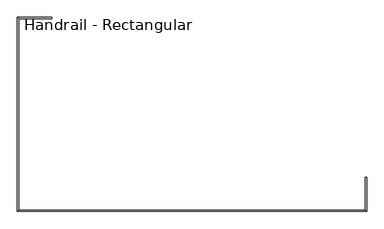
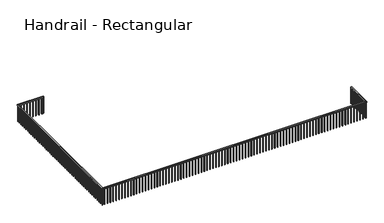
"""IFC4 building model written with IfcOpenShell, lengths in millimetres: railing geometry, Handrail - Rectangular."""

from ifc_helpers import new_model, si_unit, frame, origin, place, context, project, spatial, polyline, outline, extrude, faceted_brep, source, transform, mapped, element, save


def handrail_rectangular_77feda68(model_context):
    return source(origin(), model_context, "Body", "SolidModel", [
        faceted_brep([(-18781.6839563, -34232.3683133, 10058.4), (-18730.8839563, -34232.3683133, 10058.4), (-18730.8839563, -34232.3683133, 10007.6), (-18781.6839563, -34232.3683133, 10007.6), (-18781.6839563, -35527.7683133, 10058.4), (-18730.8839563, -35578.5683133, 10058.4), (-18730.8839563, -35578.5683133, 10007.6), (-18781.6839563, -35527.7683133, 10007.6), (-32396.0839563, -35527.7683133, 10058.4), (-32446.8839563, -35578.5683133, 10058.4), (-32446.8839563, -35578.5683133, 10007.6), (-32396.0839563, -35527.7683133, 10007.6), (-32396.0839563, -28009.3683133, 10058.4), (-32446.8839563, -27958.5683133, 10058.4), (-32446.8839563, -27958.5683133, 10007.6), (-32396.0839563, -28009.3683133, 10007.6), (-31100.6839563, -28009.3683133, 10058.4), (-31100.6839563, -28009.3683133, 10007.6), (-31100.6839563, -27958.5683133, 10007.6), (-31100.6839563, -27958.5683133, 10058.4)], [[[0, 1, 2, 3]], [[1, 0, 4, 5]], [[2, 1, 5, 6]], [[3, 2, 6, 7]], [[0, 3, 7, 4]], [[5, 4, 8, 9]], [[6, 5, 9, 10]], [[7, 6, 10, 11]], [[4, 7, 11, 8]], [[9, 8, 12, 13]], [[10, 9, 13, 14]], [[11, 10, 14, 15]], [[8, 11, 15, 12]], [[16, 17, 18, 19]], [[13, 12, 16, 19]], [[14, 13, 19, 18]], [[15, 14, 18, 17]], [[12, 15, 17, 16]]]),
        extrude(outline(polyline([(-31211.8089563, -27993.4933133), (-31211.8089563, -27974.4433133), (-31192.7589563, -27974.4433133), (-31192.7589563, -27993.4933133), (-31211.8089563, -27993.4933133)])), frame((0.0, 0.0, 9144.0), z_axis=(0.0, 0.0, 1.0), x_axis=(1.0, 0.0, 0.0)), (0.0, 0.0, 1.0), 863.6),
        extrude(outline(polyline([(-31364.2089563, -27993.4933133), (-31364.2089563, -27974.4433133), (-31345.1589563, -27974.4433133), (-31345.1589563, -27993.4933133), (-31364.2089563, -27993.4933133)])), frame((0.0, 0.0, 9144.0), z_axis=(0.0, 0.0, 1.0), x_axis=(1.0, 0.0, 0.0)), (0.0, 0.0, 1.0), 863.6),
        extrude(outline(polyline([(-31516.6089563, -27993.4933133), (-31516.6089563, -27974.4433133), (-31497.5589563, -27974.4433133), (-31497.5589563, -27993.4933133), (-31516.6089563, -27993.4933133)])), frame((0.0, 0.0, 9144.0), z_axis=(0.0, 0.0, 1.0), x_axis=(1.0, 0.0, 0.0)), (0.0, 0.0, 1.0), 863.6),
        extrude(outline(polyline([(-31669.0089563, -27993.4933133), (-31669.0089563, -27974.4433133), (-31649.9589563, -27974.4433133), (-31649.9589563, -27993.4933133), (-31669.0089563, -27993.4933133)])), frame((0.0, 0.0, 9144.0), z_axis=(0.0, 0.0, 1.0), x_axis=(1.0, 0.0, 0.0)), (0.0, 0.0, 1.0), 863.6),
        extrude(outline(polyline([(-31821.4089563, -27993.4933133), (-31821.4089563, -27974.4433133), (-31802.3589563, -27974.4433133), (-31802.3589563, -27993.4933133), (-31821.4089563, -27993.4933133)])), frame((0.0, 0.0, 9144.0), z_axis=(0.0, 0.0, 1.0), x_axis=(1.0, 0.0, 0.0)), (0.0, 0.0, 1.0), 863.6),
        extrude(outline(polyline([(-31973.8089563, -27993.4933133), (-31973.8089563, -27974.4433133), (-31954.7589563, -27974.4433133), (-31954.7589563, -27993.4933133), (-31973.8089563, -27993.4933133)])), frame((0.0, 0.0, 9144.0), z_axis=(0.0, 0.0, 1.0), x_axis=(1.0, 0.0, 0.0)), (0.0, 0.0, 1.0), 863.6),
        extrude(outline(polyline([(-32126.2089563, -27993.4933133), (-32126.2089563, -27974.4433133), (-32107.1589563, -27974.4433133), (-32107.1589563, -27993.4933133), (-32126.2089563, -27993.4933133)])), frame((0.0, 0.0, 9144.0), z_axis=(0.0, 0.0, 1.0), x_axis=(1.0, 0.0, 0.0)), (0.0, 0.0, 1.0), 863.6),
        extrude(outline(polyline([(-32278.6089563, -27993.4933133), (-32278.6089563, -27974.4433133), (-32259.5589563, -27974.4433133), (-32259.5589563, -27993.4933133), (-32278.6089563, -27993.4933133)])), frame((0.0, 0.0, 9144.0), z_axis=(0.0, 0.0, 1.0), x_axis=(1.0, 0.0, 0.0)), (0.0, 0.0, 1.0), 863.6),
        extrude(outline(polyline([(-32411.9589563, -28095.0933133), (-32431.0089563, -28095.0933133), (-32431.0089563, -28076.0433133), (-32411.9589563, -28076.0433133), (-32411.9589563, -28095.0933133)])), frame((0.0, 0.0, 9144.0), z_axis=(0.0, 0.0, 1.0), x_axis=(1.0, 0.0, 0.0)), (0.0, 0.0, 1.0), 863.6),
        extrude(outline(polyline([(-32411.9589563, -28247.4933133), (-32431.0089563, -28247.4933133), (-32431.0089563, -28228.4433133), (-32411.9589563, -28228.4433133), (-32411.9589563, -28247.4933133)])), frame((0.0, 0.0, 9144.0), z_axis=(0.0, 0.0, 1.0), x_axis=(1.0, 0.0, 0.0)), (0.0, 0.0, 1.0), 863.6),
        extrude(outline(polyline([(-32411.9589563, -28399.8933133), (-32431.0089563, -28399.8933133), (-32431.0089563, -28380.8433133), (-32411.9589563, -28380.8433133), (-32411.9589563, -28399.8933133)])), frame((0.0, 0.0, 9144.0), z_axis=(0.0, 0.0, 1.0), x_axis=(1.0, 0.0, 0.0)), (0.0, 0.0, 1.0), 863.6),
        extrude(outline(polyline([(-32411.9589563, -28552.2933133), (-32431.0089563, -28552.2933133), (-32431.0089563, -28533.2433133), (-32411.9589563, -28533.2433133), (-32411.9589563, -28552.2933133)])), frame((0.0, 0.0, 9144.0), z_axis=(0.0, 0.0, 1.0), x_axis=(1.0, 0.0, 0.0)), (0.0, 0.0, 1.0), 863.6),
        extrude(outline(polyline([(-32411.9589563, -28704.6933133), (-32431.0089563, -28704.6933133), (-32431.0089563, -28685.6433133), (-32411.9589563, -28685.6433133), (-32411.9589563, -28704.6933133)])), frame((0.0, 0.0, 9144.0), z_axis=(0.0, 0.0, 1.0), x_axis=(1.0, 0.0, 0.0)), (0.0, 0.0, 1.0), 863.6),
        extrude(outline(polyline([(-32411.9589563, -28857.0933133), (-32431.0089563, -28857.0933133), (-32431.0089563, -28838.0433133), (-32411.9589563, -28838.0433133), (-32411.9589563, -28857.0933133)])), frame((0.0, 0.0, 9144.0), z_axis=(0.0, 0.0, 1.0), x_axis=(1.0, 0.0, 0.0)), (0.0, 0.0, 1.0), 863.6),
        extrude(outline(polyline([(-32411.9589563, -29009.4933133), (-32431.0089563, -29009.4933133), (-32431.0089563, -28990.4433133), (-32411.9589563, -28990.4433133), (-32411.9589563, -29009.4933133)])), frame((0.0, 0.0, 9144.0), z_axis=(0.0, 0.0, 1.0), x_axis=(1.0, 0.0, 0.0)), (0.0, 0.0, 1.0), 863.6),
        extrude(outline(polyline([(-32411.9589563, -29161.8933133), (-32431.0089563, -29161.8933133), (-32431.0089563, -29142.8433133), (-32411.9589563, -29142.8433133), (-32411.9589563, -29161.8933133)])), frame((0.0, 0.0, 9144.0), z_axis=(0.0, 0.0, 1.0), x_axis=(1.0, 0.0, 0.0)), (0.0, 0.0, 1.0), 863.6),
        extrude(outline(polyline([(-32411.9589563, -29314.2933133), (-32431.0089563, -29314.2933133), (-32431.0089563, -29295.2433133), (-32411.9589563, -29295.2433133), (-32411.9589563, -29314.2933133)])), frame((0.0, 0.0, 9144.0), z_axis=(0.0, 0.0, 1.0), x_axis=(1.0, 0.0, 0.0)), (0.0, 0.0, 1.0), 863.6),
        extrude(outline(polyline([(-32411.9589563, -29466.6933133), (-32431.0089563, -29466.6933133), (-32431.0089563, -29447.6433133), (-32411.9589563, -29447.6433133), (-32411.9589563, -29466.6933133)])), frame((0.0, 0.0, 9144.0), z_axis=(0.0, 0.0, 1.0), x_axis=(1.0, 0.0, 0.0)), (0.0, 0.0, 1.0), 863.6),
        extrude(outline(polyline([(-32411.9589563, -29619.0933133), (-32431.0089563, -29619.0933133), (-32431.0089563, -29600.0433133), (-32411.9589563, -29600.0433133), (-32411.9589563, -29619.0933133)])), frame((0.0, 0.0, 9144.0), z_axis=(0.0, 0.0, 1.0), x_axis=(1.0, 0.0, 0.0)), (0.0, 0.0, 1.0), 863.6),
        extrude(outline(polyline([(-32411.9589563, -29771.4933133), (-32431.0089563, -29771.4933133), (-32431.0089563, -29752.4433133), (-32411.9589563, -29752.4433133), (-32411.9589563, -29771.4933133)])), frame((0.0, 0.0, 9144.0), z_axis=(0.0, 0.0, 1.0), x_axis=(1.0, 0.0, 0.0)), (0.0, 0.0, 1.0), 863.6),
        extrude(outline(polyline([(-32411.9589563, -29923.8933133), (-32431.0089563, -29923.8933133), (-32431.0089563, -29904.8433133), (-32411.9589563, -29904.8433133), (-32411.9589563, -29923.8933133)])), frame((0.0, 0.0, 9144.0), z_axis=(0.0, 0.0, 1.0), x_axis=(1.0, 0.0, 0.0)), (0.0, 0.0, 1.0), 863.6),
        extrude(outline(polyline([(-32411.9589563, -30076.2933133), (-32431.0089563, -30076.2933133), (-32431.0089563, -30057.2433133), (-32411.9589563, -30057.2433133), (-32411.9589563, -30076.2933133)])), frame((0.0, 0.0, 9144.0), z_axis=(0.0, 0.0, 1.0), x_axis=(1.0, 0.0, 0.0)), (0.0, 0.0, 1.0), 863.6),
        extrude(outline(polyline([(-32411.9589563, -30228.6933133), (-32431.0089563, -30228.6933133), (-32431.0089563, -30209.6433133), (-32411.9589563, -30209.6433133), (-32411.9589563, -30228.6933133)])), frame((0.0, 0.0, 9144.0), z_axis=(0.0, 0.0, 1.0), x_axis=(1.0, 0.0, 0.0)), (0.0, 0.0, 1.0), 863.6),
        extrude(outline(polyline([(-32411.9589563, -30381.0933133), (-32431.0089563, -30381.0933133), (-32431.0089563, -30362.0433133), (-32411.9589563, -30362.0433133), (-32411.9589563, -30381.0933133)])), frame((0.0, 0.0, 9144.0), z_axis=(0.0, 0.0, 1.0), x_axis=(1.0, 0.0, 0.0)), (0.0, 0.0, 1.0), 863.6),
        extrude(outline(polyline([(-32411.9589563, -30533.4933133), (-32431.0089563, -30533.4933133), (-32431.0089563, -30514.4433133), (-32411.9589563, -30514.4433133), (-32411.9589563, -30533.4933133)])), frame((0.0, 0.0, 9144.0), z_axis=(0.0, 0.0, 1.0), x_axis=(1.0, 0.0, 0.0)), (0.0, 0.0, 1.0), 863.6),
        extrude(outline(polyline([(-32411.9589563, -30685.8933133), (-32431.0089563, -30685.8933133), (-32431.0089563, -30666.8433133), (-32411.9589563, -30666.8433133), (-32411.9589563, -30685.8933133)])), frame((0.0, 0.0, 9144.0), z_axis=(0.0, 0.0, 1.0), x_axis=(1.0, 0.0, 0.0)), (0.0, 0.0, 1.0), 863.6),
        extrude(outline(polyline([(-32411.9589563, -30838.2933133), (-32431.0089563, -30838.2933133), (-32431.0089563, -30819.2433133), (-32411.9589563, -30819.2433133), (-32411.9589563, -30838.2933133)])), frame((0.0, 0.0, 9144.0), z_axis=(0.0, 0.0, 1.0), x_axis=(1.0, 0.0, 0.0)), (0.0, 0.0, 1.0), 863.6),
        extrude(outline(polyline([(-32411.9589563, -30990.6933133), (-32431.0089563, -30990.6933133), (-32431.0089563, -30971.6433133), (-32411.9589563, -30971.6433133), (-32411.9589563, -30990.6933133)])), frame((0.0, 0.0, 9144.0), z_axis=(0.0, 0.0, 1.0), x_axis=(1.0, 0.0, 0.0)), (0.0, 0.0, 1.0), 863.6),
        extrude(outline(polyline([(-32411.9589563, -31143.0933133), (-32431.0089563, -31143.0933133), (-32431.0089563, -31124.0433133), (-32411.9589563, -31124.0433133), (-32411.9589563, -31143.0933133)])), frame((0.0, 0.0, 9144.0), z_axis=(0.0, 0.0, 1.0), x_axis=(1.0, 0.0, 0.0)), (0.0, 0.0, 1.0), 863.6),
        extrude(outline(polyline([(-32411.9589563, -31295.4933133), (-32431.0089563, -31295.4933133), (-32431.0089563, -31276.4433133), (-32411.9589563, -31276.4433133), (-32411.9589563, -31295.4933133)])), frame((0.0, 0.0, 9144.0), z_axis=(0.0, 0.0, 1.0), x_axis=(1.0, 0.0, 0.0)), (0.0, 0.0, 1.0), 863.6),
        extrude(outline(polyline([(-32411.9589563, -31447.8933133), (-32431.0089563, -31447.8933133), (-32431.0089563, -31428.8433133), (-32411.9589563, -31428.8433133), (-32411.9589563, -31447.8933133)])), frame((0.0, 0.0, 9144.0), z_axis=(0.0, 0.0, 1.0), x_axis=(1.0, 0.0, 0.0)), (0.0, 0.0, 1.0), 863.6),
        extrude(outline(polyline([(-32411.9589563, -31600.2933133), (-32431.0089563, -31600.2933133), (-32431.0089563, -31581.2433133), (-32411.9589563, -31581.2433133), (-32411.9589563, -31600.2933133)])), frame((0.0, 0.0, 9144.0), z_axis=(0.0, 0.0, 1.0), x_axis=(1.0, 0.0, 0.0)), (0.0, 0.0, 1.0), 863.6),
        extrude(outline(polyline([(-32411.9589563, -31752.6933133), (-32431.0089563, -31752.6933133), (-32431.0089563, -31733.6433133), (-32411.9589563, -31733.6433133), (-32411.9589563, -31752.6933133)])), frame((0.0, 0.0, 9144.0), z_axis=(0.0, 0.0, 1.0), x_axis=(1.0, 0.0, 0.0)), (0.0, 0.0, 1.0), 863.6),
        extrude(outline(polyline([(-32411.9589563, -31905.0933133), (-32431.0089563, -31905.0933133), (-32431.0089563, -31886.0433133), (-32411.9589563, -31886.0433133), (-32411.9589563, -31905.0933133)])), frame((0.0, 0.0, 9144.0), z_axis=(0.0, 0.0, 1.0), x_axis=(1.0, 0.0, 0.0)), (0.0, 0.0, 1.0), 863.6),
        extrude(outline(polyline([(-32411.9589563, -32057.4933133), (-32431.0089563, -32057.4933133), (-32431.0089563, -32038.4433133), (-32411.9589563, -32038.4433133), (-32411.9589563, -32057.4933133)])), frame((0.0, 0.0, 9144.0), z_axis=(0.0, 0.0, 1.0), x_axis=(1.0, 0.0, 0.0)), (0.0, 0.0, 1.0), 863.6),
        extrude(outline(polyline([(-32411.9589563, -32209.8933133), (-32431.0089563, -32209.8933133), (-32431.0089563, -32190.8433133), (-32411.9589563, -32190.8433133), (-32411.9589563, -32209.8933133)])), frame((0.0, 0.0, 9144.0), z_axis=(0.0, 0.0, 1.0), x_axis=(1.0, 0.0, 0.0)), (0.0, 0.0, 1.0), 863.6),
        extrude(outline(polyline([(-32411.9589563, -32362.2933133), (-32431.0089563, -32362.2933133), (-32431.0089563, -32343.2433133), (-32411.9589563, -32343.2433133), (-32411.9589563, -32362.2933133)])), frame((0.0, 0.0, 9144.0), z_axis=(0.0, 0.0, 1.0), x_axis=(1.0, 0.0, 0.0)), (0.0, 0.0, 1.0), 863.6),
        extrude(outline(polyline([(-32411.9589563, -32514.6933133), (-32431.0089563, -32514.6933133), (-32431.0089563, -32495.6433133), (-32411.9589563, -32495.6433133), (-32411.9589563, -32514.6933133)])), frame((0.0, 0.0, 9144.0), z_axis=(0.0, 0.0, 1.0), x_axis=(1.0, 0.0, 0.0)), (0.0, 0.0, 1.0), 863.6),
        extrude(outline(polyline([(-32411.9589563, -32667.0933133), (-32431.0089563, -32667.0933133), (-32431.0089563, -32648.0433133), (-32411.9589563, -32648.0433133), (-32411.9589563, -32667.0933133)])), frame((0.0, 0.0, 9144.0), z_axis=(0.0, 0.0, 1.0), x_axis=(1.0, 0.0, 0.0)), (0.0, 0.0, 1.0), 863.6),
        extrude(outline(polyline([(-32411.9589563, -32819.4933133), (-32431.0089563, -32819.4933133), (-32431.0089563, -32800.4433133), (-32411.9589563, -32800.4433133), (-32411.9589563, -32819.4933133)])), frame((0.0, 0.0, 9144.0), z_axis=(0.0, 0.0, 1.0), x_axis=(1.0, 0.0, 0.0)), (0.0, 0.0, 1.0), 863.6),
        extrude(outline(polyline([(-32411.9589563, -32971.8933133), (-32431.0089563, -32971.8933133), (-32431.0089563, -32952.8433133), (-32411.9589563, -32952.8433133), (-32411.9589563, -32971.8933133)])), frame((0.0, 0.0, 9144.0), z_axis=(0.0, 0.0, 1.0), x_axis=(1.0, 0.0, 0.0)), (0.0, 0.0, 1.0), 863.6),
        extrude(outline(polyline([(-32411.9589563, -33124.2933133), (-32431.0089563, -33124.2933133), (-32431.0089563, -33105.2433133), (-32411.9589563, -33105.2433133), (-32411.9589563, -33124.2933133)])), frame((0.0, 0.0, 9144.0), z_axis=(0.0, 0.0, 1.0), x_axis=(1.0, 0.0, 0.0)), (0.0, 0.0, 1.0), 863.6),
        extrude(outline(polyline([(-32411.9589563, -33276.6933133), (-32431.0089563, -33276.6933133), (-32431.0089563, -33257.6433133), (-32411.9589563, -33257.6433133), (-32411.9589563, -33276.6933133)])), frame((0.0, 0.0, 9144.0), z_axis=(0.0, 0.0, 1.0), x_axis=(1.0, 0.0, 0.0)), (0.0, 0.0, 1.0), 863.6),
        extrude(outline(polyline([(-32411.9589563, -33429.0933133), (-32431.0089563, -33429.0933133), (-32431.0089563, -33410.0433133), (-32411.9589563, -33410.0433133), (-32411.9589563, -33429.0933133)])), frame((0.0, 0.0, 9144.0), z_axis=(0.0, 0.0, 1.0), x_axis=(1.0, 0.0, 0.0)), (0.0, 0.0, 1.0), 863.6),
        extrude(outline(polyline([(-32411.9589563, -33581.4933133), (-32431.0089563, -33581.4933133), (-32431.0089563, -33562.4433133), (-32411.9589563, -33562.4433133), (-32411.9589563, -33581.4933133)])), frame((0.0, 0.0, 9144.0), z_axis=(0.0, 0.0, 1.0), x_axis=(1.0, 0.0, 0.0)), (0.0, 0.0, 1.0), 863.6),
        extrude(outline(polyline([(-32411.9589563, -33733.8933133), (-32431.0089563, -33733.8933133), (-32431.0089563, -33714.8433133), (-32411.9589563, -33714.8433133), (-32411.9589563, -33733.8933133)])), frame((0.0, 0.0, 9144.0), z_axis=(0.0, 0.0, 1.0), x_axis=(1.0, 0.0, 0.0)), (0.0, 0.0, 1.0), 863.6),
        extrude(outline(polyline([(-32411.9589563, -33886.2933133), (-32431.0089563, -33886.2933133), (-32431.0089563, -33867.2433133), (-32411.9589563, -33867.2433133), (-32411.9589563, -33886.2933133)])), frame((0.0, 0.0, 9144.0), z_axis=(0.0, 0.0, 1.0), x_axis=(1.0, 0.0, 0.0)), (0.0, 0.0, 1.0), 863.6),
        extrude(outline(polyline([(-32411.9589563, -34038.6933133), (-32431.0089563, -34038.6933133), (-32431.0089563, -34019.6433133), (-32411.9589563, -34019.6433133), (-32411.9589563, -34038.6933133)])), frame((0.0, 0.0, 9144.0), z_axis=(0.0, 0.0, 1.0), x_axis=(1.0, 0.0, 0.0)), (0.0, 0.0, 1.0), 863.6),
        extrude(outline(polyline([(-32411.9589563, -34191.0933133), (-32431.0089563, -34191.0933133), (-32431.0089563, -34172.0433133), (-32411.9589563, -34172.0433133), (-32411.9589563, -34191.0933133)])), frame((0.0, 0.0, 9144.0), z_axis=(0.0, 0.0, 1.0), x_axis=(1.0, 0.0, 0.0)), (0.0, 0.0, 1.0), 863.6),
        extrude(outline(polyline([(-32411.9589563, -34343.4933133), (-32431.0089563, -34343.4933133), (-32431.0089563, -34324.4433133), (-32411.9589563, -34324.4433133), (-32411.9589563, -34343.4933133)])), frame((0.0, 0.0, 9144.0), z_axis=(0.0, 0.0, 1.0), x_axis=(1.0, 0.0, 0.0)), (0.0, 0.0, 1.0), 863.6),
        extrude(outline(polyline([(-32411.9589563, -34495.8933133), (-32431.0089563, -34495.8933133), (-32431.0089563, -34476.8433133), (-32411.9589563, -34476.8433133), (-32411.9589563, -34495.8933133)])), frame((0.0, 0.0, 9144.0), z_axis=(0.0, 0.0, 1.0), x_axis=(1.0, 0.0, 0.0)), (0.0, 0.0, 1.0), 863.6),
        extrude(outline(polyline([(-32411.9589563, -34648.2933133), (-32431.0089563, -34648.2933133), (-32431.0089563, -34629.2433133), (-32411.9589563, -34629.2433133), (-32411.9589563, -34648.2933133)])), frame((0.0, 0.0, 9144.0), z_axis=(0.0, 0.0, 1.0), x_axis=(1.0, 0.0, 0.0)), (0.0, 0.0, 1.0), 863.6),
        extrude(outline(polyline([(-32411.9589563, -34800.6933133), (-32431.0089563, -34800.6933133), (-32431.0089563, -34781.6433133), (-32411.9589563, -34781.6433133), (-32411.9589563, -34800.6933133)])), frame((0.0, 0.0, 9144.0), z_axis=(0.0, 0.0, 1.0), x_axis=(1.0, 0.0, 0.0)), (0.0, 0.0, 1.0), 863.6),
        extrude(outline(polyline([(-32411.9589563, -34953.0933133), (-32431.0089563, -34953.0933133), (-32431.0089563, -34934.0433133), (-32411.9589563, -34934.0433133), (-32411.9589563, -34953.0933133)])), frame((0.0, 0.0, 9144.0), z_axis=(0.0, 0.0, 1.0), x_axis=(1.0, 0.0, 0.0)), (0.0, 0.0, 1.0), 863.6),
        extrude(outline(polyline([(-32411.9589563, -35105.4933133), (-32431.0089563, -35105.4933133), (-32431.0089563, -35086.4433133), (-32411.9589563, -35086.4433133), (-32411.9589563, -35105.4933133)])), frame((0.0, 0.0, 9144.0), z_axis=(0.0, 0.0, 1.0), x_axis=(1.0, 0.0, 0.0)), (0.0, 0.0, 1.0), 863.6),
        extrude(outline(polyline([(-32411.9589563, -35257.8933133), (-32431.0089563, -35257.8933133), (-32431.0089563, -35238.8433133), (-32411.9589563, -35238.8433133), (-32411.9589563, -35257.8933133)])), frame((0.0, 0.0, 9144.0), z_axis=(0.0, 0.0, 1.0), x_axis=(1.0, 0.0, 0.0)), (0.0, 0.0, 1.0), 863.6),
        extrude(outline(polyline([(-32411.9589563, -35410.2933133), (-32431.0089563, -35410.2933133), (-32431.0089563, -35391.2433133), (-32411.9589563, -35391.2433133), (-32411.9589563, -35410.2933133)])), frame((0.0, 0.0, 9144.0), z_axis=(0.0, 0.0, 1.0), x_axis=(1.0, 0.0, 0.0)), (0.0, 0.0, 1.0), 863.6),
        extrude(outline(polyline([(-32310.3589563, -35543.6433133), (-32310.3589563, -35562.6933133), (-32329.4089563, -35562.6933133), (-32329.4089563, -35543.6433133), (-32310.3589563, -35543.6433133)])), frame((0.0, 0.0, 9144.0), z_axis=(0.0, 0.0, 1.0), x_axis=(1.0, 0.0, 0.0)), (0.0, 0.0, 1.0), 863.6),
        extrude(outline(polyline([(-32157.9589563, -35543.6433133), (-32157.9589563, -35562.6933133), (-32177.0089563, -35562.6933133), (-32177.0089563, -35543.6433133), (-32157.9589563, -35543.6433133)])), frame((0.0, 0.0, 9144.0), z_axis=(0.0, 0.0, 1.0), x_axis=(1.0, 0.0, 0.0)), (0.0, 0.0, 1.0), 863.6),
        extrude(outline(polyline([(-32005.5589563, -35543.6433133), (-32005.5589563, -35562.6933133), (-32024.6089563, -35562.6933133), (-32024.6089563, -35543.6433133), (-32005.5589563, -35543.6433133)])), frame((0.0, 0.0, 9144.0), z_axis=(0.0, 0.0, 1.0), x_axis=(1.0, 0.0, 0.0)), (0.0, 0.0, 1.0), 863.6),
        extrude(outline(polyline([(-31853.1589563, -35543.6433133), (-31853.1589563, -35562.6933133), (-31872.2089563, -35562.6933133), (-31872.2089563, -35543.6433133), (-31853.1589563, -35543.6433133)])), frame((0.0, 0.0, 9144.0), z_axis=(0.0, 0.0, 1.0), x_axis=(1.0, 0.0, 0.0)), (0.0, 0.0, 1.0), 863.6),
        extrude(outline(polyline([(-31700.7589563, -35543.6433133), (-31700.7589563, -35562.6933133), (-31719.8089563, -35562.6933133), (-31719.8089563, -35543.6433133), (-31700.7589563, -35543.6433133)])), frame((0.0, 0.0, 9144.0), z_axis=(0.0, 0.0, 1.0), x_axis=(1.0, 0.0, 0.0)), (0.0, 0.0, 1.0), 863.6),
        extrude(outline(polyline([(-31548.3589563, -35543.6433133), (-31548.3589563, -35562.6933133), (-31567.4089563, -35562.6933133), (-31567.4089563, -35543.6433133), (-31548.3589563, -35543.6433133)])), frame((0.0, 0.0, 9144.0), z_axis=(0.0, 0.0, 1.0), x_axis=(1.0, 0.0, 0.0)), (0.0, 0.0, 1.0), 863.6),
        extrude(outline(polyline([(-31395.9589563, -35543.6433133), (-31395.9589563, -35562.6933133), (-31415.0089563, -35562.6933133), (-31415.0089563, -35543.6433133), (-31395.9589563, -35543.6433133)])), frame((0.0, 0.0, 9144.0), z_axis=(0.0, 0.0, 1.0), x_axis=(1.0, 0.0, 0.0)), (0.0, 0.0, 1.0), 863.6),
        extrude(outline(polyline([(-31243.5589563, -35543.6433133), (-31243.5589563, -35562.6933133), (-31262.6089563, -35562.6933133), (-31262.6089563, -35543.6433133), (-31243.5589563, -35543.6433133)])), frame((0.0, 0.0, 9144.0), z_axis=(0.0, 0.0, 1.0), x_axis=(1.0, 0.0, 0.0)), (0.0, 0.0, 1.0), 863.6),
        extrude(outline(polyline([(-31091.1589563, -35543.6433133), (-31091.1589563, -35562.6933133), (-31110.2089563, -35562.6933133), (-31110.2089563, -35543.6433133), (-31091.1589563, -35543.6433133)])), frame((0.0, 0.0, 9144.0), z_axis=(0.0, 0.0, 1.0), x_axis=(1.0, 0.0, 0.0)), (0.0, 0.0, 1.0), 863.6),
        extrude(outline(polyline([(-30938.7589563, -35543.6433133), (-30938.7589563, -35562.6933133), (-30957.8089563, -35562.6933133), (-30957.8089563, -35543.6433133), (-30938.7589563, -35543.6433133)])), frame((0.0, 0.0, 9144.0), z_axis=(0.0, 0.0, 1.0), x_axis=(1.0, 0.0, 0.0)), (0.0, 0.0, 1.0), 863.6),
        extrude(outline(polyline([(-30786.3589563, -35543.6433133), (-30786.3589563, -35562.6933133), (-30805.4089563, -35562.6933133), (-30805.4089563, -35543.6433133), (-30786.3589563, -35543.6433133)])), frame((0.0, 0.0, 9144.0), z_axis=(0.0, 0.0, 1.0), x_axis=(1.0, 0.0, 0.0)), (0.0, 0.0, 1.0), 863.6),
        extrude(outline(polyline([(-30633.9589563, -35543.6433133), (-30633.9589563, -35562.6933133), (-30653.0089563, -35562.6933133), (-30653.0089563, -35543.6433133), (-30633.9589563, -35543.6433133)])), frame((0.0, 0.0, 9144.0), z_axis=(0.0, 0.0, 1.0), x_axis=(1.0, 0.0, 0.0)), (0.0, 0.0, 1.0), 863.6),
        extrude(outline(polyline([(-30481.5589563, -35543.6433133), (-30481.5589563, -35562.6933133), (-30500.6089563, -35562.6933133), (-30500.6089563, -35543.6433133), (-30481.5589563, -35543.6433133)])), frame((0.0, 0.0, 9144.0), z_axis=(0.0, 0.0, 1.0), x_axis=(1.0, 0.0, 0.0)), (0.0, 0.0, 1.0), 863.6),
        extrude(outline(polyline([(-30329.1589563, -35543.6433133), (-30329.1589563, -35562.6933133), (-30348.2089563, -35562.6933133), (-30348.2089563, -35543.6433133), (-30329.1589563, -35543.6433133)])), frame((0.0, 0.0, 9144.0), z_axis=(0.0, 0.0, 1.0), x_axis=(1.0, 0.0, 0.0)), (0.0, 0.0, 1.0), 863.6),
        extrude(outline(polyline([(-30176.7589563, -35543.6433133), (-30176.7589563, -35562.6933133), (-30195.8089563, -35562.6933133), (-30195.8089563, -35543.6433133), (-30176.7589563, -35543.6433133)])), frame((0.0, 0.0, 9144.0), z_axis=(0.0, 0.0, 1.0), x_axis=(1.0, 0.0, 0.0)), (0.0, 0.0, 1.0), 863.6),
        extrude(outline(polyline([(-30024.3589563, -35543.6433133), (-30024.3589563, -35562.6933133), (-30043.4089563, -35562.6933133), (-30043.4089563, -35543.6433133), (-30024.3589563, -35543.6433133)])), frame((0.0, 0.0, 9144.0), z_axis=(0.0, 0.0, 1.0), x_axis=(1.0, 0.0, 0.0)), (0.0, 0.0, 1.0), 863.6),
        extrude(outline(polyline([(-29871.9589563, -35543.6433133), (-29871.9589563, -35562.6933133), (-29891.0089563, -35562.6933133), (-29891.0089563, -35543.6433133), (-29871.9589563, -35543.6433133)])), frame((0.0, 0.0, 9144.0), z_axis=(0.0, 0.0, 1.0), x_axis=(1.0, 0.0, 0.0)), (0.0, 0.0, 1.0), 863.6),
        extrude(outline(polyline([(-29719.5589563, -35543.6433133), (-29719.5589563, -35562.6933133), (-29738.6089563, -35562.6933133), (-29738.6089563, -35543.6433133), (-29719.5589563, -35543.6433133)])), frame((0.0, 0.0, 9144.0), z_axis=(0.0, 0.0, 1.0), x_axis=(1.0, 0.0, 0.0)), (0.0, 0.0, 1.0), 863.6),
        extrude(outline(polyline([(-29567.1589563, -35543.6433133), (-29567.1589563, -35562.6933133), (-29586.2089563, -35562.6933133), (-29586.2089563, -35543.6433133), (-29567.1589563, -35543.6433133)])), frame((0.0, 0.0, 9144.0), z_axis=(0.0, 0.0, 1.0), x_axis=(1.0, 0.0, 0.0)), (0.0, 0.0, 1.0), 863.6),
        extrude(outline(polyline([(-29414.7589563, -35543.6433133), (-29414.7589563, -35562.6933133), (-29433.8089563, -35562.6933133), (-29433.8089563, -35543.6433133), (-29414.7589563, -35543.6433133)])), frame((0.0, 0.0, 9144.0), z_axis=(0.0, 0.0, 1.0), x_axis=(1.0, 0.0, 0.0)), (0.0, 0.0, 1.0), 863.6),
        extrude(outline(polyline([(-29262.3589563, -35543.6433133), (-29262.3589563, -35562.6933133), (-29281.4089563, -35562.6933133), (-29281.4089563, -35543.6433133), (-29262.3589563, -35543.6433133)])), frame((0.0, 0.0, 9144.0), z_axis=(0.0, 0.0, 1.0), x_axis=(1.0, 0.0, 0.0)), (0.0, 0.0, 1.0), 863.6),
        extrude(outline(polyline([(-29109.9589563, -35543.6433133), (-29109.9589563, -35562.6933133), (-29129.0089563, -35562.6933133), (-29129.0089563, -35543.6433133), (-29109.9589563, -35543.6433133)])), frame((0.0, 0.0, 9144.0), z_axis=(0.0, 0.0, 1.0), x_axis=(1.0, 0.0, 0.0)), (0.0, 0.0, 1.0), 863.6),
        extrude(outline(polyline([(-28957.5589563, -35543.6433133), (-28957.5589563, -35562.6933133), (-28976.6089563, -35562.6933133), (-28976.6089563, -35543.6433133), (-28957.5589563, -35543.6433133)])), frame((0.0, 0.0, 9144.0), z_axis=(0.0, 0.0, 1.0), x_axis=(1.0, 0.0, 0.0)), (0.0, 0.0, 1.0), 863.6),
        extrude(outline(polyline([(-28805.1589563, -35543.6433133), (-28805.1589563, -35562.6933133), (-28824.2089563, -35562.6933133), (-28824.2089563, -35543.6433133), (-28805.1589563, -35543.6433133)])), frame((0.0, 0.0, 9144.0), z_axis=(0.0, 0.0, 1.0), x_axis=(1.0, 0.0, 0.0)), (0.0, 0.0, 1.0), 863.6),
        extrude(outline(polyline([(-28652.7589563, -35543.6433133), (-28652.7589563, -35562.6933133), (-28671.8089563, -35562.6933133), (-28671.8089563, -35543.6433133), (-28652.7589563, -35543.6433133)])), frame((0.0, 0.0, 9144.0), z_axis=(0.0, 0.0, 1.0), x_axis=(1.0, 0.0, 0.0)), (0.0, 0.0, 1.0), 863.6),
        extrude(outline(polyline([(-28500.3589563, -35543.6433133), (-28500.3589563, -35562.6933133), (-28519.4089563, -35562.6933133), (-28519.4089563, -35543.6433133), (-28500.3589563, -35543.6433133)])), frame((0.0, 0.0, 9144.0), z_axis=(0.0, 0.0, 1.0), x_axis=(1.0, 0.0, 0.0)), (0.0, 0.0, 1.0), 863.6),
        extrude(outline(polyline([(-28347.9589563, -35543.6433133), (-28347.9589563, -35562.6933133), (-28367.0089563, -35562.6933133), (-28367.0089563, -35543.6433133), (-28347.9589563, -35543.6433133)])), frame((0.0, 0.0, 9144.0), z_axis=(0.0, 0.0, 1.0), x_axis=(1.0, 0.0, 0.0)), (0.0, 0.0, 1.0), 863.6),
        extrude(outline(polyline([(-28195.5589563, -35543.6433133), (-28195.5589563, -35562.6933133), (-28214.6089563, -35562.6933133), (-28214.6089563, -35543.6433133), (-28195.5589563, -35543.6433133)])), frame((0.0, 0.0, 9144.0), z_axis=(0.0, 0.0, 1.0), x_axis=(1.0, 0.0, 0.0)), (0.0, 0.0, 1.0), 863.6),
        extrude(outline(polyline([(-28043.1589563, -35543.6433133), (-28043.1589563, -35562.6933133), (-28062.2089563, -35562.6933133), (-28062.2089563, -35543.6433133), (-28043.1589563, -35543.6433133)])), frame((0.0, 0.0, 9144.0), z_axis=(0.0, 0.0, 1.0), x_axis=(1.0, 0.0, 0.0)), (0.0, 0.0, 1.0), 863.6),
        extrude(outline(polyline([(-27890.7589563, -35543.6433133), (-27890.7589563, -35562.6933133), (-27909.8089563, -35562.6933133), (-27909.8089563, -35543.6433133), (-27890.7589563, -35543.6433133)])), frame((0.0, 0.0, 9144.0), z_axis=(0.0, 0.0, 1.0), x_axis=(1.0, 0.0, 0.0)), (0.0, 0.0, 1.0), 863.6),
        extrude(outline(polyline([(-27738.3589563, -35543.6433133), (-27738.3589563, -35562.6933133), (-27757.4089563, -35562.6933133), (-27757.4089563, -35543.6433133), (-27738.3589563, -35543.6433133)])), frame((0.0, 0.0, 9144.0), z_axis=(0.0, 0.0, 1.0), x_axis=(1.0, 0.0, 0.0)), (0.0, 0.0, 1.0), 863.6),
        extrude(outline(polyline([(-27585.9589563, -35543.6433133), (-27585.9589563, -35562.6933133), (-27605.0089563, -35562.6933133), (-27605.0089563, -35543.6433133), (-27585.9589563, -35543.6433133)])), frame((0.0, 0.0, 9144.0), z_axis=(0.0, 0.0, 1.0), x_axis=(1.0, 0.0, 0.0)), (0.0, 0.0, 1.0), 863.6),
        extrude(outline(polyline([(-27433.5589563, -35543.6433133), (-27433.5589563, -35562.6933133), (-27452.6089563, -35562.6933133), (-27452.6089563, -35543.6433133), (-27433.5589563, -35543.6433133)])), frame((0.0, 0.0, 9144.0), z_axis=(0.0, 0.0, 1.0), x_axis=(1.0, 0.0, 0.0)), (0.0, 0.0, 1.0), 863.6),
        extrude(outline(polyline([(-27281.1589563, -35543.6433133), (-27281.1589563, -35562.6933133), (-27300.2089563, -35562.6933133), (-27300.2089563, -35543.6433133), (-27281.1589563, -35543.6433133)])), frame((0.0, 0.0, 9144.0), z_axis=(0.0, 0.0, 1.0), x_axis=(1.0, 0.0, 0.0)), (0.0, 0.0, 1.0), 863.6),
        extrude(outline(polyline([(-27128.7589563, -35543.6433133), (-27128.7589563, -35562.6933133), (-27147.8089563, -35562.6933133), (-27147.8089563, -35543.6433133), (-27128.7589563, -35543.6433133)])), frame((0.0, 0.0, 9144.0), z_axis=(0.0, 0.0, 1.0), x_axis=(1.0, 0.0, 0.0)), (0.0, 0.0, 1.0), 863.6),
        extrude(outline(polyline([(-26976.3589563, -35543.6433133), (-26976.3589563, -35562.6933133), (-26995.4089563, -35562.6933133), (-26995.4089563, -35543.6433133), (-26976.3589563, -35543.6433133)])), frame((0.0, 0.0, 9144.0), z_axis=(0.0, 0.0, 1.0), x_axis=(1.0, 0.0, 0.0)), (0.0, 0.0, 1.0), 863.6),
        extrude(outline(polyline([(-26823.9589563, -35543.6433133), (-26823.9589563, -35562.6933133), (-26843.0089563, -35562.6933133), (-26843.0089563, -35543.6433133), (-26823.9589563, -35543.6433133)])), frame((0.0, 0.0, 9144.0), z_axis=(0.0, 0.0, 1.0), x_axis=(1.0, 0.0, 0.0)), (0.0, 0.0, 1.0), 863.6),
        extrude(outline(polyline([(-26671.5589563, -35543.6433133), (-26671.5589563, -35562.6933133), (-26690.6089563, -35562.6933133), (-26690.6089563, -35543.6433133), (-26671.5589563, -35543.6433133)])), frame((0.0, 0.0, 9144.0), z_axis=(0.0, 0.0, 1.0), x_axis=(1.0, 0.0, 0.0)), (0.0, 0.0, 1.0), 863.6),
        extrude(outline(polyline([(-26519.1589563, -35543.6433133), (-26519.1589563, -35562.6933133), (-26538.2089563, -35562.6933133), (-26538.2089563, -35543.6433133), (-26519.1589563, -35543.6433133)])), frame((0.0, 0.0, 9144.0), z_axis=(0.0, 0.0, 1.0), x_axis=(1.0, 0.0, 0.0)), (0.0, 0.0, 1.0), 863.6),
        extrude(outline(polyline([(-26366.7589563, -35543.6433133), (-26366.7589563, -35562.6933133), (-26385.8089563, -35562.6933133), (-26385.8089563, -35543.6433133), (-26366.7589563, -35543.6433133)])), frame((0.0, 0.0, 9144.0), z_axis=(0.0, 0.0, 1.0), x_axis=(1.0, 0.0, 0.0)), (0.0, 0.0, 1.0), 863.6),
        extrude(outline(polyline([(-26214.3589563, -35543.6433133), (-26214.3589563, -35562.6933133), (-26233.4089563, -35562.6933133), (-26233.4089563, -35543.6433133), (-26214.3589563, -35543.6433133)])), frame((0.0, 0.0, 9144.0), z_axis=(0.0, 0.0, 1.0), x_axis=(1.0, 0.0, 0.0)), (0.0, 0.0, 1.0), 863.6),
        extrude(outline(polyline([(-26061.9589563, -35543.6433133), (-26061.9589563, -35562.6933133), (-26081.0089563, -35562.6933133), (-26081.0089563, -35543.6433133), (-26061.9589563, -35543.6433133)])), frame((0.0, 0.0, 9144.0), z_axis=(0.0, 0.0, 1.0), x_axis=(1.0, 0.0, 0.0)), (0.0, 0.0, 1.0), 863.6),
        extrude(outline(polyline([(-25909.5589563, -35543.6433133), (-25909.5589563, -35562.6933133), (-25928.6089563, -35562.6933133), (-25928.6089563, -35543.6433133), (-25909.5589563, -35543.6433133)])), frame((0.0, 0.0, 9144.0), z_axis=(0.0, 0.0, 1.0), x_axis=(1.0, 0.0, 0.0)), (0.0, 0.0, 1.0), 863.6),
        extrude(outline(polyline([(-25757.1589563, -35543.6433133), (-25757.1589563, -35562.6933133), (-25776.2089563, -35562.6933133), (-25776.2089563, -35543.6433133), (-25757.1589563, -35543.6433133)])), frame((0.0, 0.0, 9144.0), z_axis=(0.0, 0.0, 1.0), x_axis=(1.0, 0.0, 0.0)), (0.0, 0.0, 1.0), 863.6),
        extrude(outline(polyline([(-25604.7589563, -35543.6433133), (-25604.7589563, -35562.6933133), (-25623.8089563, -35562.6933133), (-25623.8089563, -35543.6433133), (-25604.7589563, -35543.6433133)])), frame((0.0, 0.0, 9144.0), z_axis=(0.0, 0.0, 1.0), x_axis=(1.0, 0.0, 0.0)), (0.0, 0.0, 1.0), 863.6),
        extrude(outline(polyline([(-25452.3589563, -35543.6433133), (-25452.3589563, -35562.6933133), (-25471.4089563, -35562.6933133), (-25471.4089563, -35543.6433133), (-25452.3589563, -35543.6433133)])), frame((0.0, 0.0, 9144.0), z_axis=(0.0, 0.0, 1.0), x_axis=(1.0, 0.0, 0.0)), (0.0, 0.0, 1.0), 863.6),
        extrude(outline(polyline([(-25299.9589563, -35543.6433133), (-25299.9589563, -35562.6933133), (-25319.0089563, -35562.6933133), (-25319.0089563, -35543.6433133), (-25299.9589563, -35543.6433133)])), frame((0.0, 0.0, 9144.0), z_axis=(0.0, 0.0, 1.0), x_axis=(1.0, 0.0, 0.0)), (0.0, 0.0, 1.0), 863.6),
        extrude(outline(polyline([(-25147.5589563, -35543.6433133), (-25147.5589563, -35562.6933133), (-25166.6089563, -35562.6933133), (-25166.6089563, -35543.6433133), (-25147.5589563, -35543.6433133)])), frame((0.0, 0.0, 9144.0), z_axis=(0.0, 0.0, 1.0), x_axis=(1.0, 0.0, 0.0)), (0.0, 0.0, 1.0), 863.6),
        extrude(outline(polyline([(-24995.1589563, -35543.6433133), (-24995.1589563, -35562.6933133), (-25014.2089563, -35562.6933133), (-25014.2089563, -35543.6433133), (-24995.1589563, -35543.6433133)])), frame((0.0, 0.0, 9144.0), z_axis=(0.0, 0.0, 1.0), x_axis=(1.0, 0.0, 0.0)), (0.0, 0.0, 1.0), 863.6),
        extrude(outline(polyline([(-24842.7589563, -35543.6433133), (-24842.7589563, -35562.6933133), (-24861.8089563, -35562.6933133), (-24861.8089563, -35543.6433133), (-24842.7589563, -35543.6433133)])), frame((0.0, 0.0, 9144.0), z_axis=(0.0, 0.0, 1.0), x_axis=(1.0, 0.0, 0.0)), (0.0, 0.0, 1.0), 863.6),
        extrude(outline(polyline([(-24690.3589563, -35543.6433133), (-24690.3589563, -35562.6933133), (-24709.4089563, -35562.6933133), (-24709.4089563, -35543.6433133), (-24690.3589563, -35543.6433133)])), frame((0.0, 0.0, 9144.0), z_axis=(0.0, 0.0, 1.0), x_axis=(1.0, 0.0, 0.0)), (0.0, 0.0, 1.0), 863.6),
        extrude(outline(polyline([(-24537.9589563, -35543.6433133), (-24537.9589563, -35562.6933133), (-24557.0089563, -35562.6933133), (-24557.0089563, -35543.6433133), (-24537.9589563, -35543.6433133)])), frame((0.0, 0.0, 9144.0), z_axis=(0.0, 0.0, 1.0), x_axis=(1.0, 0.0, 0.0)), (0.0, 0.0, 1.0), 863.6),
        extrude(outline(polyline([(-24385.5589563, -35543.6433133), (-24385.5589563, -35562.6933133), (-24404.6089563, -35562.6933133), (-24404.6089563, -35543.6433133), (-24385.5589563, -35543.6433133)])), frame((0.0, 0.0, 9144.0), z_axis=(0.0, 0.0, 1.0), x_axis=(1.0, 0.0, 0.0)), (0.0, 0.0, 1.0), 863.6),
        extrude(outline(polyline([(-24233.1589563, -35543.6433133), (-24233.1589563, -35562.6933133), (-24252.2089563, -35562.6933133), (-24252.2089563, -35543.6433133), (-24233.1589563, -35543.6433133)])), frame((0.0, 0.0, 9144.0), z_axis=(0.0, 0.0, 1.0), x_axis=(1.0, 0.0, 0.0)), (0.0, 0.0, 1.0), 863.6),
        extrude(outline(polyline([(-24080.7589563, -35543.6433133), (-24080.7589563, -35562.6933133), (-24099.8089563, -35562.6933133), (-24099.8089563, -35543.6433133), (-24080.7589563, -35543.6433133)])), frame((0.0, 0.0, 9144.0), z_axis=(0.0, 0.0, 1.0), x_axis=(1.0, 0.0, 0.0)), (0.0, 0.0, 1.0), 863.6),
        extrude(outline(polyline([(-23928.3589563, -35543.6433133), (-23928.3589563, -35562.6933133), (-23947.4089563, -35562.6933133), (-23947.4089563, -35543.6433133), (-23928.3589563, -35543.6433133)])), frame((0.0, 0.0, 9144.0), z_axis=(0.0, 0.0, 1.0), x_axis=(1.0, 0.0, 0.0)), (0.0, 0.0, 1.0), 863.6),
        extrude(outline(polyline([(-23775.9589563, -35543.6433133), (-23775.9589563, -35562.6933133), (-23795.0089563, -35562.6933133), (-23795.0089563, -35543.6433133), (-23775.9589563, -35543.6433133)])), frame((0.0, 0.0, 9144.0), z_axis=(0.0, 0.0, 1.0), x_axis=(1.0, 0.0, 0.0)), (0.0, 0.0, 1.0), 863.6),
        extrude(outline(polyline([(-23623.5589563, -35543.6433133), (-23623.5589563, -35562.6933133), (-23642.6089563, -35562.6933133), (-23642.6089563, -35543.6433133), (-23623.5589563, -35543.6433133)])), frame((0.0, 0.0, 9144.0), z_axis=(0.0, 0.0, 1.0), x_axis=(1.0, 0.0, 0.0)), (0.0, 0.0, 1.0), 863.6),
        extrude(outline(polyline([(-23471.1589563, -35543.6433133), (-23471.1589563, -35562.6933133), (-23490.2089563, -35562.6933133), (-23490.2089563, -35543.6433133), (-23471.1589563, -35543.6433133)])), frame((0.0, 0.0, 9144.0), z_axis=(0.0, 0.0, 1.0), x_axis=(1.0, 0.0, 0.0)), (0.0, 0.0, 1.0), 863.6),
        extrude(outline(polyline([(-23318.7589563, -35543.6433133), (-23318.7589563, -35562.6933133), (-23337.8089563, -35562.6933133), (-23337.8089563, -35543.6433133), (-23318.7589563, -35543.6433133)])), frame((0.0, 0.0, 9144.0), z_axis=(0.0, 0.0, 1.0), x_axis=(1.0, 0.0, 0.0)), (0.0, 0.0, 1.0), 863.6),
        extrude(outline(polyline([(-23166.3589563, -35543.6433133), (-23166.3589563, -35562.6933133), (-23185.4089563, -35562.6933133), (-23185.4089563, -35543.6433133), (-23166.3589563, -35543.6433133)])), frame((0.0, 0.0, 9144.0), z_axis=(0.0, 0.0, 1.0), x_axis=(1.0, 0.0, 0.0)), (0.0, 0.0, 1.0), 863.6),
        extrude(outline(polyline([(-23013.9589563, -35543.6433133), (-23013.9589563, -35562.6933133), (-23033.0089563, -35562.6933133), (-23033.0089563, -35543.6433133), (-23013.9589563, -35543.6433133)])), frame((0.0, 0.0, 9144.0), z_axis=(0.0, 0.0, 1.0), x_axis=(1.0, 0.0, 0.0)), (0.0, 0.0, 1.0), 863.6),
        extrude(outline(polyline([(-22861.5589563, -35543.6433133), (-22861.5589563, -35562.6933133), (-22880.6089563, -35562.6933133), (-22880.6089563, -35543.6433133), (-22861.5589563, -35543.6433133)])), frame((0.0, 0.0, 9144.0), z_axis=(0.0, 0.0, 1.0), x_axis=(1.0, 0.0, 0.0)), (0.0, 0.0, 1.0), 863.6),
        extrude(outline(polyline([(-22709.1589563, -35543.6433133), (-22709.1589563, -35562.6933133), (-22728.2089563, -35562.6933133), (-22728.2089563, -35543.6433133), (-22709.1589563, -35543.6433133)])), frame((0.0, 0.0, 9144.0), z_axis=(0.0, 0.0, 1.0), x_axis=(1.0, 0.0, 0.0)), (0.0, 0.0, 1.0), 863.6),
        extrude(outline(polyline([(-22556.7589563, -35543.6433133), (-22556.7589563, -35562.6933133), (-22575.8089563, -35562.6933133), (-22575.8089563, -35543.6433133), (-22556.7589563, -35543.6433133)])), frame((0.0, 0.0, 9144.0), z_axis=(0.0, 0.0, 1.0), x_axis=(1.0, 0.0, 0.0)), (0.0, 0.0, 1.0), 863.6),
        extrude(outline(polyline([(-22404.3589563, -35543.6433133), (-22404.3589563, -35562.6933133), (-22423.4089563, -35562.6933133), (-22423.4089563, -35543.6433133), (-22404.3589563, -35543.6433133)])), frame((0.0, 0.0, 9144.0), z_axis=(0.0, 0.0, 1.0), x_axis=(1.0, 0.0, 0.0)), (0.0, 0.0, 1.0), 863.6),
        extrude(outline(polyline([(-22251.9589563, -35543.6433133), (-22251.9589563, -35562.6933133), (-22271.0089563, -35562.6933133), (-22271.0089563, -35543.6433133), (-22251.9589563, -35543.6433133)])), frame((0.0, 0.0, 9144.0), z_axis=(0.0, 0.0, 1.0), x_axis=(1.0, 0.0, 0.0)), (0.0, 0.0, 1.0), 863.6),
        extrude(outline(polyline([(-22099.5589563, -35543.6433133), (-22099.5589563, -35562.6933133), (-22118.6089563, -35562.6933133), (-22118.6089563, -35543.6433133), (-22099.5589563, -35543.6433133)])), frame((0.0, 0.0, 9144.0), z_axis=(0.0, 0.0, 1.0), x_axis=(1.0, 0.0, 0.0)), (0.0, 0.0, 1.0), 863.6),
        extrude(outline(polyline([(-21947.1589563, -35543.6433133), (-21947.1589563, -35562.6933133), (-21966.2089563, -35562.6933133), (-21966.2089563, -35543.6433133), (-21947.1589563, -35543.6433133)])), frame((0.0, 0.0, 9144.0), z_axis=(0.0, 0.0, 1.0), x_axis=(1.0, 0.0, 0.0)), (0.0, 0.0, 1.0), 863.6),
        extrude(outline(polyline([(-21794.7589563, -35543.6433133), (-21794.7589563, -35562.6933133), (-21813.8089563, -35562.6933133), (-21813.8089563, -35543.6433133), (-21794.7589563, -35543.6433133)])), frame((0.0, 0.0, 9144.0), z_axis=(0.0, 0.0, 1.0), x_axis=(1.0, 0.0, 0.0)), (0.0, 0.0, 1.0), 863.6),
        extrude(outline(polyline([(-21642.3589563, -35543.6433133), (-21642.3589563, -35562.6933133), (-21661.4089563, -35562.6933133), (-21661.4089563, -35543.6433133), (-21642.3589563, -35543.6433133)])), frame((0.0, 0.0, 9144.0), z_axis=(0.0, 0.0, 1.0), x_axis=(1.0, 0.0, 0.0)), (0.0, 0.0, 1.0), 863.6),
        extrude(outline(polyline([(-21489.9589563, -35543.6433133), (-21489.9589563, -35562.6933133), (-21509.0089563, -35562.6933133), (-21509.0089563, -35543.6433133), (-21489.9589563, -35543.6433133)])), frame((0.0, 0.0, 9144.0), z_axis=(0.0, 0.0, 1.0), x_axis=(1.0, 0.0, 0.0)), (0.0, 0.0, 1.0), 863.6),
        extrude(outline(polyline([(-21337.5589563, -35543.6433133), (-21337.5589563, -35562.6933133), (-21356.6089563, -35562.6933133), (-21356.6089563, -35543.6433133), (-21337.5589563, -35543.6433133)])), frame((0.0, 0.0, 9144.0), z_axis=(0.0, 0.0, 1.0), x_axis=(1.0, 0.0, 0.0)), (0.0, 0.0, 1.0), 863.6),
        extrude(outline(polyline([(-21185.1589563, -35543.6433133), (-21185.1589563, -35562.6933133), (-21204.2089563, -35562.6933133), (-21204.2089563, -35543.6433133), (-21185.1589563, -35543.6433133)])), frame((0.0, 0.0, 9144.0), z_axis=(0.0, 0.0, 1.0), x_axis=(1.0, 0.0, 0.0)), (0.0, 0.0, 1.0), 863.6),
        extrude(outline(polyline([(-21032.7589563, -35543.6433133), (-21032.7589563, -35562.6933133), (-21051.8089563, -35562.6933133), (-21051.8089563, -35543.6433133), (-21032.7589563, -35543.6433133)])), frame((0.0, 0.0, 9144.0), z_axis=(0.0, 0.0, 1.0), x_axis=(1.0, 0.0, 0.0)), (0.0, 0.0, 1.0), 863.6),
        extrude(outline(polyline([(-20880.3589563, -35543.6433133), (-20880.3589563, -35562.6933133), (-20899.4089563, -35562.6933133), (-20899.4089563, -35543.6433133), (-20880.3589563, -35543.6433133)])), frame((0.0, 0.0, 9144.0), z_axis=(0.0, 0.0, 1.0), x_axis=(1.0, 0.0, 0.0)), (0.0, 0.0, 1.0), 863.6),
        extrude(outline(polyline([(-20727.9589563, -35543.6433133), (-20727.9589563, -35562.6933133), (-20747.0089563, -35562.6933133), (-20747.0089563, -35543.6433133), (-20727.9589563, -35543.6433133)])), frame((0.0, 0.0, 9144.0), z_axis=(0.0, 0.0, 1.0), x_axis=(1.0, 0.0, 0.0)), (0.0, 0.0, 1.0), 863.6),
        extrude(outline(polyline([(-20575.5589563, -35543.6433133), (-20575.5589563, -35562.6933133), (-20594.6089563, -35562.6933133), (-20594.6089563, -35543.6433133), (-20575.5589563, -35543.6433133)])), frame((0.0, 0.0, 9144.0), z_axis=(0.0, 0.0, 1.0), x_axis=(1.0, 0.0, 0.0)), (0.0, 0.0, 1.0), 863.6),
        extrude(outline(polyline([(-20423.1589563, -35543.6433133), (-20423.1589563, -35562.6933133), (-20442.2089563, -35562.6933133), (-20442.2089563, -35543.6433133), (-20423.1589563, -35543.6433133)])), frame((0.0, 0.0, 9144.0), z_axis=(0.0, 0.0, 1.0), x_axis=(1.0, 0.0, 0.0)), (0.0, 0.0, 1.0), 863.6),
        extrude(outline(polyline([(-20270.7589563, -35543.6433133), (-20270.7589563, -35562.6933133), (-20289.8089563, -35562.6933133), (-20289.8089563, -35543.6433133), (-20270.7589563, -35543.6433133)])), frame((0.0, 0.0, 9144.0), z_axis=(0.0, 0.0, 1.0), x_axis=(1.0, 0.0, 0.0)), (0.0, 0.0, 1.0), 863.6),
        extrude(outline(polyline([(-20118.3589563, -35543.6433133), (-20118.3589563, -35562.6933133), (-20137.4089563, -35562.6933133), (-20137.4089563, -35543.6433133), (-20118.3589563, -35543.6433133)])), frame((0.0, 0.0, 9144.0), z_axis=(0.0, 0.0, 1.0), x_axis=(1.0, 0.0, 0.0)), (0.0, 0.0, 1.0), 863.6),
        extrude(outline(polyline([(-19965.9589563, -35543.6433133), (-19965.9589563, -35562.6933133), (-19985.0089563, -35562.6933133), (-19985.0089563, -35543.6433133), (-19965.9589563, -35543.6433133)])), frame((0.0, 0.0, 9144.0), z_axis=(0.0, 0.0, 1.0), x_axis=(1.0, 0.0, 0.0)), (0.0, 0.0, 1.0), 863.6),
        extrude(outline(polyline([(-19813.5589563, -35543.6433133), (-19813.5589563, -35562.6933133), (-19832.6089563, -35562.6933133), (-19832.6089563, -35543.6433133), (-19813.5589563, -35543.6433133)])), frame((0.0, 0.0, 9144.0), z_axis=(0.0, 0.0, 1.0), x_axis=(1.0, 0.0, 0.0)), (0.0, 0.0, 1.0), 863.6),
        extrude(outline(polyline([(-19661.1589563, -35543.6433133), (-19661.1589563, -35562.6933133), (-19680.2089563, -35562.6933133), (-19680.2089563, -35543.6433133), (-19661.1589563, -35543.6433133)])), frame((0.0, 0.0, 9144.0), z_axis=(0.0, 0.0, 1.0), x_axis=(1.0, 0.0, 0.0)), (0.0, 0.0, 1.0), 863.6),
        extrude(outline(polyline([(-19508.7589563, -35543.6433133), (-19508.7589563, -35562.6933133), (-19527.8089563, -35562.6933133), (-19527.8089563, -35543.6433133), (-19508.7589563, -35543.6433133)])), frame((0.0, 0.0, 9144.0), z_axis=(0.0, 0.0, 1.0), x_axis=(1.0, 0.0, 0.0)), (0.0, 0.0, 1.0), 863.6),
        extrude(outline(polyline([(-19356.3589563, -35543.6433133), (-19356.3589563, -35562.6933133), (-19375.4089563, -35562.6933133), (-19375.4089563, -35543.6433133), (-19356.3589563, -35543.6433133)])), frame((0.0, 0.0, 9144.0), z_axis=(0.0, 0.0, 1.0), x_axis=(1.0, 0.0, 0.0)), (0.0, 0.0, 1.0), 863.6),
        extrude(outline(polyline([(-19203.9589563, -35543.6433133), (-19203.9589563, -35562.6933133), (-19223.0089563, -35562.6933133), (-19223.0089563, -35543.6433133), (-19203.9589563, -35543.6433133)])), frame((0.0, 0.0, 9144.0), z_axis=(0.0, 0.0, 1.0), x_axis=(1.0, 0.0, 0.0)), (0.0, 0.0, 1.0), 863.6),
        extrude(outline(polyline([(-19051.5589563, -35543.6433133), (-19051.5589563, -35562.6933133), (-19070.6089563, -35562.6933133), (-19070.6089563, -35543.6433133), (-19051.5589563, -35543.6433133)])), frame((0.0, 0.0, 9144.0), z_axis=(0.0, 0.0, 1.0), x_axis=(1.0, 0.0, 0.0)), (0.0, 0.0, 1.0), 863.6),
        extrude(outline(polyline([(-18899.1589563, -35543.6433133), (-18899.1589563, -35562.6933133), (-18918.2089563, -35562.6933133), (-18918.2089563, -35543.6433133), (-18899.1589563, -35543.6433133)])), frame((0.0, 0.0, 9144.0), z_axis=(0.0, 0.0, 1.0), x_axis=(1.0, 0.0, 0.0)), (0.0, 0.0, 1.0), 863.6),
        extrude(outline(polyline([(-18765.8089563, -35442.0433133), (-18746.7589563, -35442.0433133), (-18746.7589563, -35461.0933133), (-18765.8089563, -35461.0933133), (-18765.8089563, -35442.0433133)])), frame((0.0, 0.0, 9144.0), z_axis=(0.0, 0.0, 1.0), x_axis=(1.0, 0.0, 0.0)), (0.0, 0.0, 1.0), 863.6),
        extrude(outline(polyline([(-18765.8089563, -35289.6433133), (-18746.7589563, -35289.6433133), (-18746.7589563, -35308.6933133), (-18765.8089563, -35308.6933133), (-18765.8089563, -35289.6433133)])), frame((0.0, 0.0, 9144.0), z_axis=(0.0, 0.0, 1.0), x_axis=(1.0, 0.0, 0.0)), (0.0, 0.0, 1.0), 863.6),
        extrude(outline(polyline([(-18765.8089563, -35137.2433133), (-18746.7589563, -35137.2433133), (-18746.7589563, -35156.2933133), (-18765.8089563, -35156.2933133), (-18765.8089563, -35137.2433133)])), frame((0.0, 0.0, 9144.0), z_axis=(0.0, 0.0, 1.0), x_axis=(1.0, 0.0, 0.0)), (0.0, 0.0, 1.0), 863.6),
        extrude(outline(polyline([(-18765.8089563, -34984.8433133), (-18746.7589563, -34984.8433133), (-18746.7589563, -35003.8933133), (-18765.8089563, -35003.8933133), (-18765.8089563, -34984.8433133)])), frame((0.0, 0.0, 9144.0), z_axis=(0.0, 0.0, 1.0), x_axis=(1.0, 0.0, 0.0)), (0.0, 0.0, 1.0), 863.6),
        extrude(outline(polyline([(-18765.8089563, -34832.4433133), (-18746.7589563, -34832.4433133), (-18746.7589563, -34851.4933133), (-18765.8089563, -34851.4933133), (-18765.8089563, -34832.4433133)])), frame((0.0, 0.0, 9144.0), z_axis=(0.0, 0.0, 1.0), x_axis=(1.0, 0.0, 0.0)), (0.0, 0.0, 1.0), 863.6),
        extrude(outline(polyline([(-18765.8089563, -34680.0433133), (-18746.7589563, -34680.0433133), (-18746.7589563, -34699.0933133), (-18765.8089563, -34699.0933133), (-18765.8089563, -34680.0433133)])), frame((0.0, 0.0, 9144.0), z_axis=(0.0, 0.0, 1.0), x_axis=(1.0, 0.0, 0.0)), (0.0, 0.0, 1.0), 863.6),
        extrude(outline(polyline([(-18765.8089563, -34527.6433133), (-18746.7589563, -34527.6433133), (-18746.7589563, -34546.6933133), (-18765.8089563, -34546.6933133), (-18765.8089563, -34527.6433133)])), frame((0.0, 0.0, 9144.0), z_axis=(0.0, 0.0, 1.0), x_axis=(1.0, 0.0, 0.0)), (0.0, 0.0, 1.0), 863.6),
        extrude(outline(polyline([(-18765.8089563, -34375.2433133), (-18746.7589563, -34375.2433133), (-18746.7589563, -34394.2933133), (-18765.8089563, -34394.2933133), (-18765.8089563, -34375.2433133)])), frame((0.0, 0.0, 9144.0), z_axis=(0.0, 0.0, 1.0), x_axis=(1.0, 0.0, 0.0)), (0.0, 0.0, 1.0), 863.6),
        extrude(outline(polyline([(-32411.9589563, -27993.4933133), (-32431.0089563, -27993.4933133), (-32431.0089563, -27974.4433133), (-32411.9589563, -27974.4433133), (-32411.9589563, -27993.4933133)])), frame((0.0, 0.0, 9144.0), z_axis=(0.0, 0.0, 1.0), x_axis=(1.0, 0.0, 0.0)), (0.0, 0.0, 1.0), 863.6),
        extrude(outline(polyline([(-32411.9589563, -35543.6433133), (-32411.9589563, -35562.6933133), (-32431.0089563, -35562.6933133), (-32431.0089563, -35543.6433133), (-32411.9589563, -35543.6433133)])), frame((0.0, 0.0, 9144.0), z_axis=(0.0, 0.0, 1.0), x_axis=(1.0, 0.0, 0.0)), (0.0, 0.0, 1.0), 863.6),
        extrude(outline(polyline([(-18765.8089563, -35543.6433133), (-18746.7589563, -35543.6433133), (-18746.7589563, -35562.6933133), (-18765.8089563, -35562.6933133), (-18765.8089563, -35543.6433133)])), frame((0.0, 0.0, 9144.0), z_axis=(0.0, 0.0, 1.0), x_axis=(1.0, 0.0, 0.0)), (0.0, 0.0, 1.0), 863.6),
        extrude(outline(polyline([(-31119.7339563, -27993.4933133), (-31119.7339563, -27974.4433133), (-31100.6839563, -27974.4433133), (-31100.6839563, -27993.4933133), (-31119.7339563, -27993.4933133)])), frame((0.0, 0.0, 9144.0), z_axis=(0.0, 0.0, 1.0), x_axis=(1.0, 0.0, 0.0)), (0.0, 0.0, 1.0), 863.6),
        extrude(outline(polyline([(-18765.8089563, -34232.3683133), (-18746.7589563, -34232.3683133), (-18746.7589563, -34251.4183133), (-18765.8089563, -34251.4183133), (-18765.8089563, -34232.3683133)])), frame((0.0, 0.0, 9144.0), z_axis=(0.0, 0.0, 1.0), x_axis=(1.0, 0.0, 0.0)), (0.0, 0.0, 1.0), 863.6),
    ])


if __name__ == "__main__":
    model = new_model("IFC4")
    model_context = context("Model", 3, world=origin())
    ifc_project = project(units=[si_unit("LENGTHUNIT", "METRE", prefix="MILLI")], contexts=[model_context])
    site = spatial("IfcSite", under=ifc_project)
    building = spatial("IfcBuilding", under=site)
    placement = place(None, origin())
    handrail_rectangular_shape = handrail_rectangular_77feda68(model_context)
    element("IfcRailing", 1, ObjectType="Handrail - Rectangular", at=placement, inside=building, context=model_context, shape_type="MappedRepresentation", body=[
        mapped(handrail_rectangular_shape, transform((0.0, 0.0, 0.0), x_axis=(1.0, 0.0, 0.0), y_axis=(0.0, 1.0, 0.0), z_axis=(0.0, 0.0, 1.0))),
    ])
    save(model, "model.ifc")
